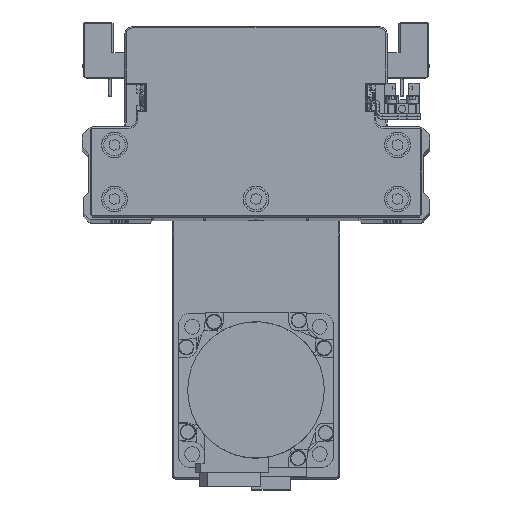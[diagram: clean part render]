
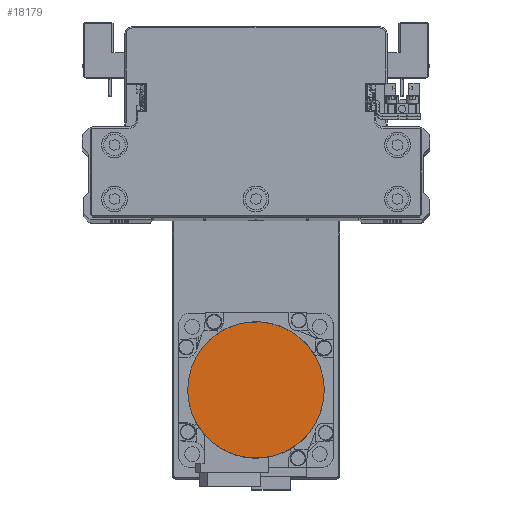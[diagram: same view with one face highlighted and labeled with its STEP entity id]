
A CAD part, top view. The second image highlights one B-rep face of the part: STEP entity #18179.
In plain terms, the highlighted planar face has unit normal (0, 0, 1) as drawn and (0, 0, -1) by its records, which use the part's own axes.
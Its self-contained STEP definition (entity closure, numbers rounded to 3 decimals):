
#1387 = ORIENTED_EDGE ( 'NONE', *, *, #23728, .F. ) ;
#1949 = CARTESIAN_POINT ( 'NONE',  ( 11.744, 23.819, -109.7 ) ) ;
#2049 = CARTESIAN_POINT ( 'NONE',  ( -26.329, -3.469, -109.7 ) ) ;
#2079 = CARTESIAN_POINT ( 'NONE',  ( -26.5, 0., -109.7 ) ) ;
#2144 = CARTESIAN_POINT ( 'NONE',  ( -19.965, 17.512, -109.7 ) ) ;
#2251 = CARTESIAN_POINT ( 'NONE',  ( -3.469, -26.329, -109.7 ) ) ;
#2452 = CARTESIAN_POINT ( 'NONE',  ( 23.819, -11.744, -109.7 ) ) ;
#3385 = EDGE_LOOP ( 'NONE', ( #1387, #12451 ) ) ;
#3711 = DIRECTION ( 'NONE',  ( 1., 0., 0. ) ) ;
#5021 = CARTESIAN_POINT ( 'NONE',  ( 17.512, 19.965, -109.7 ) ) ;
#5219 = CARTESIAN_POINT ( 'NONE',  ( -13.28, 22.998, -109.7 ) ) ;
#5316 = CARTESIAN_POINT ( 'NONE',  ( -11.744, -23.819, -109.7 ) ) ;
#5518 = CARTESIAN_POINT ( 'NONE',  ( 19.965, -17.512, -109.7 ) ) ;
#6772 = PLANE ( 'NONE',  #15291 ) ;
#7374 = VERTEX_POINT ( 'NONE', #26426 ) ;
#8094 = CARTESIAN_POINT ( 'NONE',  ( 22.998, 13.28, -109.7 ) ) ;
#8300 = CARTESIAN_POINT ( 'NONE',  ( -6.871, 25.652, -109.7 ) ) ;
#8400 = CARTESIAN_POINT ( 'NONE',  ( -17.512, -19.965, -109.7 ) ) ;
#8499 = CARTESIAN_POINT ( 'NONE',  ( -26.5, 1.734, -109.7 ) ) ;
#8600 = CARTESIAN_POINT ( 'NONE',  ( 13.28, -22.998, -109.7 ) ) ;
#11178 = CARTESIAN_POINT ( 'NONE',  ( 25.652, 6.871, -109.7 ) ) ;
#11377 = CARTESIAN_POINT ( 'NONE',  ( 1.734, 26.5, -109.7 ) ) ;
#11481 = CARTESIAN_POINT ( 'NONE',  ( -22.998, -13.28, -109.7 ) ) ;
#11582 = CARTESIAN_POINT ( 'NONE',  ( -25.147, 8.539, -109.7 ) ) ;
#11677 = CARTESIAN_POINT ( 'NONE',  ( 6.871, -25.652, -109.7 ) ) ;
#11871 = CARTESIAN_POINT ( 'NONE',  ( 26.5, -1.734, -109.7 ) ) ;
#12451 = ORIENTED_EDGE ( 'NONE', *, *, #18382, .F. ) ;
#12911 = B_SPLINE_CURVE_WITH_KNOTS ( 'NONE', 3,
 ( #17651, #30183, #2049, #14570, #27110, #39662, #11481, #24025, #36575, #8400, #20931, #33482, #5316, #17847, #30395, #2251, #14774, #27311, #39863, #11677, #24224, #36769, #8600, #21131, #33683, #5518, #18050, #30598, #2452, #14975, #27505, #40060, #11871, #24420 ),
 .UNSPECIFIED., .F., .F.,
 ( 4, 2, 2, 2, 2, 2, 2, 2, 2, 2, 2, 2, 2, 2, 2, 2, 4 ),
 ( 0., 0.063, 0.125, 0.188, 0.25, 0.312, 0.375, 0.437, 0.5, 0.562, 0.625, 0.687, 0.75, 0.813, 0.875, 0.938, 1. ),
 .UNSPECIFIED. ) ;
#14275 = CARTESIAN_POINT ( 'NONE',  ( 26.5, 0., -109.7 ) ) ;
#14467 = CARTESIAN_POINT ( 'NONE',  ( 8.539, 25.147, -109.7 ) ) ;
#14570 = CARTESIAN_POINT ( 'NONE',  ( -25.652, -6.871, -109.7 ) ) ;
#14669 = CARTESIAN_POINT ( 'NONE',  ( -21.07, 16.165, -109.7 ) ) ;
#14774 = CARTESIAN_POINT ( 'NONE',  ( -1.734, -26.5, -109.7 ) ) ;
#14975 = CARTESIAN_POINT ( 'NONE',  ( 25.147, -8.539, -109.7 ) ) ;
#15291 = AXIS2_PLACEMENT_3D ( 'NONE', #19307, #31867, #3711 ) ;
#15395 = VERTEX_POINT ( 'NONE', #2079 ) ;
#17556 = CARTESIAN_POINT ( 'NONE',  ( 16.165, 21.07, -109.7 ) ) ;
#17651 = CARTESIAN_POINT ( 'NONE',  ( -26.5, 0., -109.7 ) ) ;
#17752 = CARTESIAN_POINT ( 'NONE',  ( -16.165, 21.07, -109.7 ) ) ;
#17847 = CARTESIAN_POINT ( 'NONE',  ( -8.539, -25.147, -109.7 ) ) ;
#18050 = CARTESIAN_POINT ( 'NONE',  ( 21.07, -16.165, -109.7 ) ) ;
#18179 = ADVANCED_FACE ( 'NONE', ( #34948 ), #6772, .F. ) ;
#18382 = EDGE_CURVE ( 'NONE', #15395, #7374, #12911, .T. ) ;
#19307 = CARTESIAN_POINT ( 'NONE',  ( 0., 0., -109.7 ) ) ;
#20627 = CARTESIAN_POINT ( 'NONE',  ( 21.07, 16.165, -109.7 ) ) ;
#20838 = CARTESIAN_POINT ( 'NONE',  ( -8.539, 25.147, -109.7 ) ) ;
#20931 = CARTESIAN_POINT ( 'NONE',  ( -16.165, -21.07, -109.7 ) ) ;
#21034 = CARTESIAN_POINT ( 'NONE',  ( -26.5, 0., -109.7 ) ) ;
#21131 = CARTESIAN_POINT ( 'NONE',  ( 16.165, -21.07, -109.7 ) ) ;
#23706 = CARTESIAN_POINT ( 'NONE',  ( 25.147, 8.539, -109.7 ) ) ;
#23728 = EDGE_CURVE ( 'NONE', #7374, #15395, #35931, .T. ) ;
#23917 = CARTESIAN_POINT ( 'NONE',  ( -1.734, 26.5, -109.7 ) ) ;
#24025 = CARTESIAN_POINT ( 'NONE',  ( -21.07, -16.165, -109.7 ) ) ;
#24130 = CARTESIAN_POINT ( 'NONE',  ( -25.652, 6.871, -109.7 ) ) ;
#24224 = CARTESIAN_POINT ( 'NONE',  ( 8.539, -25.147, -109.7 ) ) ;
#24420 = CARTESIAN_POINT ( 'NONE',  ( 26.5, 0., -109.7 ) ) ;
#26426 = CARTESIAN_POINT ( 'NONE',  ( 26.5, 0., -109.7 ) ) ;
#26809 = CARTESIAN_POINT ( 'NONE',  ( 26.5, 1.734, -109.7 ) ) ;
#27005 = CARTESIAN_POINT ( 'NONE',  ( 6.871, 25.652, -109.7 ) ) ;
#27110 = CARTESIAN_POINT ( 'NONE',  ( -25.147, -8.539, -109.7 ) ) ;
#27204 = CARTESIAN_POINT ( 'NONE',  ( -22.998, 13.28, -109.7 ) ) ;
#27311 = CARTESIAN_POINT ( 'NONE',  ( 1.734, -26.5, -109.7 ) ) ;
#27505 = CARTESIAN_POINT ( 'NONE',  ( 25.652, -6.871, -109.7 ) ) ;
#30093 = CARTESIAN_POINT ( 'NONE',  ( 13.28, 22.998, -109.7 ) ) ;
#30183 = CARTESIAN_POINT ( 'NONE',  ( -26.5, -1.734, -109.7 ) ) ;
#30291 = CARTESIAN_POINT ( 'NONE',  ( -17.512, 19.965, -109.7 ) ) ;
#30395 = CARTESIAN_POINT ( 'NONE',  ( -6.871, -25.652, -109.7 ) ) ;
#30598 = CARTESIAN_POINT ( 'NONE',  ( 22.998, -13.28, -109.7 ) ) ;
#31867 = DIRECTION ( 'NONE',  ( 0., 0., 1. ) ) ;
#33183 = CARTESIAN_POINT ( 'NONE',  ( 19.965, 17.512, -109.7 ) ) ;
#33390 = CARTESIAN_POINT ( 'NONE',  ( -11.744, 23.819, -109.7 ) ) ;
#33482 = CARTESIAN_POINT ( 'NONE',  ( -13.28, -22.998, -109.7 ) ) ;
#33683 = CARTESIAN_POINT ( 'NONE',  ( 17.512, -19.965, -109.7 ) ) ;
#34948 = FACE_OUTER_BOUND ( 'NONE', #3385, .T. ) ;
#35931 = B_SPLINE_CURVE_WITH_KNOTS ( 'NONE', 3,
 ( #14275, #26809, #39357, #11178, #23706, #36266, #8094, #20627, #33183, #5021, #17556, #30093, #1949, #14467, #27005, #39554, #11377, #23917, #36477, #8300, #20838, #33390, #5219, #17752, #30291, #2144, #14669, #27204, #39760, #11582, #24130, #36681, #8499, #21034 ),
 .UNSPECIFIED., .F., .F.,
 ( 4, 2, 2, 2, 2, 2, 2, 2, 2, 2, 2, 2, 2, 2, 2, 2, 4 ),
 ( 0., 0.062, 0.125, 0.187, 0.25, 0.312, 0.375, 0.437, 0.5, 0.562, 0.625, 0.687, 0.75, 0.813, 0.875, 0.938, 1. ),
 .UNSPECIFIED. ) ;
#36266 = CARTESIAN_POINT ( 'NONE',  ( 23.819, 11.744, -109.7 ) ) ;
#36477 = CARTESIAN_POINT ( 'NONE',  ( -3.469, 26.329, -109.7 ) ) ;
#36575 = CARTESIAN_POINT ( 'NONE',  ( -19.965, -17.512, -109.7 ) ) ;
#36681 = CARTESIAN_POINT ( 'NONE',  ( -26.329, 3.469, -109.7 ) ) ;
#36769 = CARTESIAN_POINT ( 'NONE',  ( 11.744, -23.819, -109.7 ) ) ;
#39357 = CARTESIAN_POINT ( 'NONE',  ( 26.329, 3.469, -109.7 ) ) ;
#39554 = CARTESIAN_POINT ( 'NONE',  ( 3.469, 26.329, -109.7 ) ) ;
#39662 = CARTESIAN_POINT ( 'NONE',  ( -23.819, -11.744, -109.7 ) ) ;
#39760 = CARTESIAN_POINT ( 'NONE',  ( -23.819, 11.744, -109.7 ) ) ;
#39863 = CARTESIAN_POINT ( 'NONE',  ( 3.469, -26.329, -109.7 ) ) ;
#40060 = CARTESIAN_POINT ( 'NONE',  ( 26.329, -3.469, -109.7 ) ) ;
